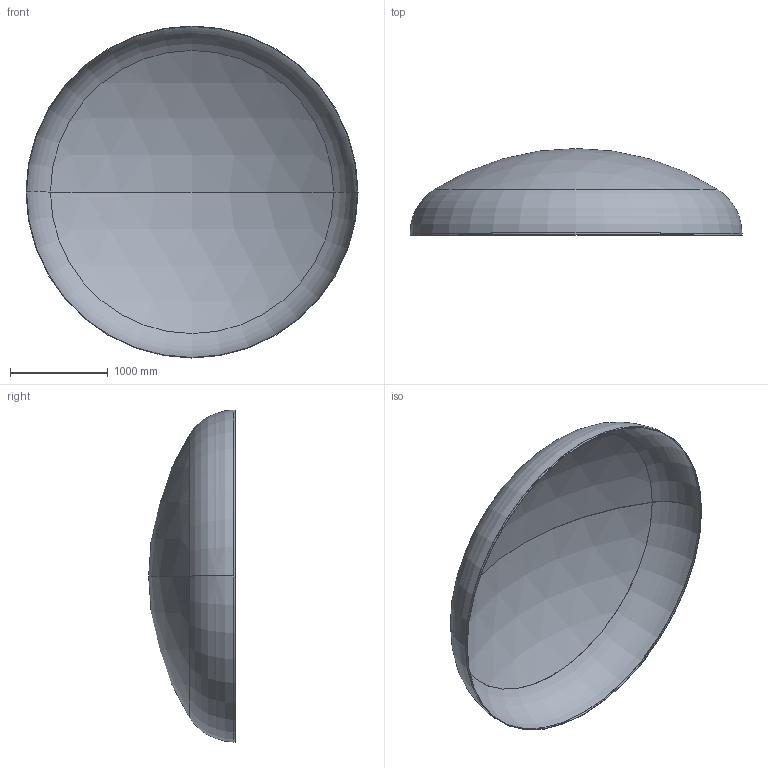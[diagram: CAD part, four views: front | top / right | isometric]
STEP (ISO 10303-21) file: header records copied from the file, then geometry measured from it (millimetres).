
FILE_DESCRIPTION (( 'STEP AP203' ), '1' );
FILE_NAME ('DIN 28013 Korbbogenform_-_Boden DIN 28013 - 3400 x 20 - I - s=5.step', '2016-07-01T19:06:37', ( '' ), ( '' ), 'SwSTEP 2.0', 'SolidWorks 2013', '' );
FILE_SCHEMA (( 'CONFIG_CONTROL_DESIGN' ));
Length unit declared in the file: millimetre
Products named in the file (1): DIN 28013 Korbbogenform_-_Boden DIN 28013 - 3400 x 20 - I - s=5
Bounding box: 3400 x 887.82 x 3400 mm (x, y, z)
Volume: 63856332.4 mm3; surface area: 25595903.3 mm2
Topology: 1 solids, 1 shells, 13 faces, 24 edges, 14 vertices
Faces by surface type: torus 4, cylinder 4, sphere 4, plane 1
Entity records: 407 total; most frequent: DIRECTION 72, CARTESIAN_POINT 52, ORIENTED_EDGE 48, AXIS2_PLACEMENT_3D 34, EDGE_CURVE 24, CIRCLE 20, EDGE_LOOP 14, VERTEX_POINT 14
